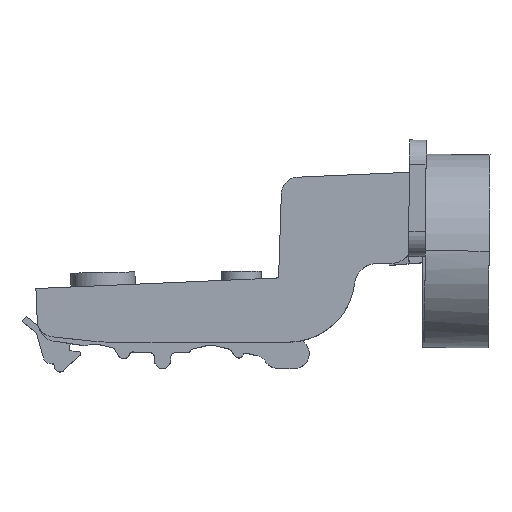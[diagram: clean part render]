
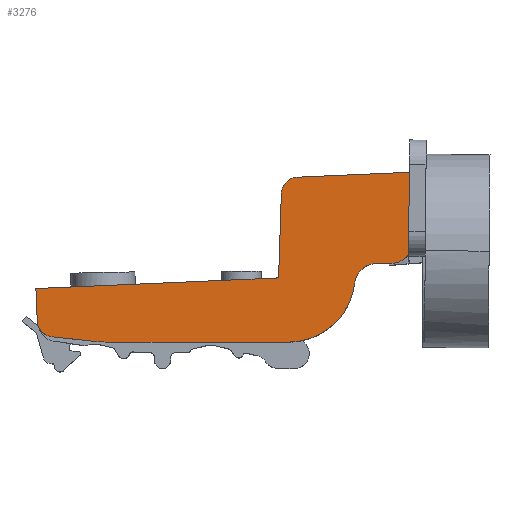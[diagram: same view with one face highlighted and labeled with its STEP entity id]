
A CAD part, top view. The second image highlights one B-rep face of the part: STEP entity #3276.
In plain terms, the highlighted planar face has unit normal (0, 0, 1).
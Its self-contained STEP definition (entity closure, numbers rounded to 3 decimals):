
#78 = CIRCLE ( 'NONE', #549, 30. ) ;
#102 = VECTOR ( 'NONE', #2965, 1000. ) ;
#105 = AXIS2_PLACEMENT_3D ( 'NONE', #3272, #2898, #1049 ) ;
#111 = VERTEX_POINT ( 'NONE', #4655 ) ;
#139 = CIRCLE ( 'NONE', #1222, 4.5 ) ;
#187 = ORIENTED_EDGE ( 'NONE', *, *, #2604, .F. ) ;
#212 = CARTESIAN_POINT ( 'NONE',  ( -18.463, 12.016, 8.5 ) ) ;
#246 = DIRECTION ( 'NONE',  ( 0.999, 0.044, 0. ) ) ;
#271 = DIRECTION ( 'NONE',  ( 0., 0., -1. ) ) ;
#311 = LINE ( 'NONE', #377, #1356 ) ;
#322 = CARTESIAN_POINT ( 'NONE',  ( -48.683, 30., 8.5 ) ) ;
#346 = VECTOR ( 'NONE', #1999, 1000. ) ;
#377 = CARTESIAN_POINT ( 'NONE',  ( -16.683, 0., 8.5 ) ) ;
#382 = LINE ( 'NONE', #4086, #2038 ) ;
#384 = ORIENTED_EDGE ( 'NONE', *, *, #2451, .F. ) ;
#394 = DIRECTION ( 'NONE',  ( 0., -1., 0. ) ) ;
#404 = CARTESIAN_POINT ( 'NONE',  ( -18.941, 11.534, 8.5 ) ) ;
#465 = CIRCLE ( 'NONE', #3194, 12. ) ;
#477 = VERTEX_POINT ( 'NONE', #901 ) ;
#487 = CIRCLE ( 'NONE', #2906, 3. ) ;
#510 = PLANE ( 'NONE',  #2912 ) ;
#525 = VERTEX_POINT ( 'NONE', #2742 ) ;
#545 = VERTEX_POINT ( 'NONE', #1820 ) ;
#549 = AXIS2_PLACEMENT_3D ( 'NONE', #322, #271, #1732 ) ;
#587 = CARTESIAN_POINT ( 'NONE',  ( 4.927, 15.687, 8.5 ) ) ;
#661 = LINE ( 'NONE', #1715, #1949 ) ;
#737 = CARTESIAN_POINT ( 'NONE',  ( -51.819, 0.164, 8.5 ) ) ;
#804 = EDGE_CURVE ( 'NONE', #525, #1540, #465, .T. ) ;
#812 = DIRECTION ( 'NONE',  ( 0., 0., -1. ) ) ;
#858 = VERTEX_POINT ( 'NONE', #4687 ) ;
#901 = CARTESIAN_POINT ( 'NONE',  ( -18.941, 11.534, 8.5 ) ) ;
#968 = EDGE_CURVE ( 'NONE', #4460, #4495, #3360, .T. ) ;
#971 = CARTESIAN_POINT ( 'NONE',  ( 5.061, 30.582, 8.5 ) ) ;
#1049 = DIRECTION ( 'NONE',  ( 0., -1., 0. ) ) ;
#1058 = DIRECTION ( 'NONE',  ( 0., -1., 0. ) ) ;
#1061 = DIRECTION ( 'NONE',  ( -1., 0., 0. ) ) ;
#1102 = CARTESIAN_POINT ( 'NONE',  ( -16.683, 0., 8.5 ) ) ;
#1131 = DIRECTION ( 'NONE',  ( 0., -1., 0. ) ) ;
#1190 = LINE ( 'NONE', #1932, #346 ) ;
#1222 = AXIS2_PLACEMENT_3D ( 'NONE', #3257, #4694, #1058 ) ;
#1244 = EDGE_CURVE ( 'NONE', #1588, #477, #2089, .T. ) ;
#1277 = ORIENTED_EDGE ( 'NONE', *, *, #804, .F. ) ;
#1300 = EDGE_CURVE ( 'NONE', #2704, #4228, #78, .T. ) ;
#1356 = VECTOR ( 'NONE', #1061, 1000. ) ;
#1404 = VERTEX_POINT ( 'NONE', #587 ) ;
#1446 = CARTESIAN_POINT ( 'NONE',  ( -0.788, 10.17, 8.5 ) ) ;
#1452 = ORIENTED_EDGE ( 'NONE', *, *, #3137, .F. ) ;
#1533 = EDGE_CURVE ( 'NONE', #1540, #2704, #311, .T. ) ;
#1540 = VERTEX_POINT ( 'NONE', #1102 ) ;
#1588 = VERTEX_POINT ( 'NONE', #4056 ) ;
#1598 = ORIENTED_EDGE ( 'NONE', *, *, #1244, .F. ) ;
#1663 = DIRECTION ( 'NONE',  ( 0., -1., 0. ) ) ;
#1715 = CARTESIAN_POINT ( 'NONE',  ( -51.819, 0.164, 8.5 ) ) ;
#1732 = DIRECTION ( 'NONE',  ( 0., -1., 0. ) ) ;
#1768 = ORIENTED_EDGE ( 'NONE', *, *, #1533, .F. ) ;
#1800 = AXIS2_PLACEMENT_3D ( 'NONE', #4457, #812, #1131 ) ;
#1820 = CARTESIAN_POINT ( 'NONE',  ( -15.114, 29.701, 8.5 ) ) ;
#1875 = ORIENTED_EDGE ( 'NONE', *, *, #3814, .F. ) ;
#1879 = CIRCLE ( 'NONE', #105, 0.5 ) ;
#1932 = CARTESIAN_POINT ( 'NONE',  ( -61.916, 3.601, 8.5 ) ) ;
#1949 = VECTOR ( 'NONE', #2466, 1000. ) ;
#1999 = DIRECTION ( 'NONE',  ( -0.044, 0.999, 0. ) ) ;
#2006 = VECTOR ( 'NONE', #246, 1000. ) ;
#2013 = EDGE_CURVE ( 'NONE', #4020, #1404, #382, .T. ) ;
#2038 = VECTOR ( 'NONE', #3288, 1000. ) ;
#2089 = LINE ( 'NONE', #404, #2006 ) ;
#2095 = LINE ( 'NONE', #2537, #4413 ) ;
#2118 = ORIENTED_EDGE ( 'NONE', *, *, #2013, .F. ) ;
#2211 = DIRECTION ( 'NONE',  ( 0., 0., 1. ) ) ;
#2280 = ORIENTED_EDGE ( 'NONE', *, *, #3659, .F. ) ;
#2328 = DIRECTION ( 'NONE',  ( 0., 0., -1. ) ) ;
#2354 = DIRECTION ( 'NONE',  ( 1., 0., 0. ) ) ;
#2360 = VERTEX_POINT ( 'NONE', #4009 ) ;
#2379 = VECTOR ( 'NONE', #4131, 1000. ) ;
#2451 = EDGE_CURVE ( 'NONE', #858, #111, #487, .T. ) ;
#2466 = DIRECTION ( 'NONE',  ( -0.995, 0.105, 0. ) ) ;
#2485 = DIRECTION ( 'NONE',  ( 0.999, 0.044, 0. ) ) ;
#2537 = CARTESIAN_POINT ( 'NONE',  ( 5.061, 30.582, 8.5 ) ) ;
#2604 = EDGE_CURVE ( 'NONE', #111, #1588, #1190, .T. ) ;
#2655 = CIRCLE ( 'NONE', #3857, 4. ) ;
#2678 = ORIENTED_EDGE ( 'NONE', *, *, #4532, .F. ) ;
#2704 = VERTEX_POINT ( 'NONE', #3983 ) ;
#2734 = DIRECTION ( 'NONE',  ( 0., 0., 1. ) ) ;
#2742 = CARTESIAN_POINT ( 'NONE',  ( -4.762, 10.627, 8.5 ) ) ;
#2790 = CARTESIAN_POINT ( 'NONE',  ( -16.683, 12., 8.5 ) ) ;
#2891 = LINE ( 'NONE', #3772, #102 ) ;
#2898 = DIRECTION ( 'NONE',  ( 0., 0., 1. ) ) ;
#2906 = AXIS2_PLACEMENT_3D ( 'NONE', #4128, #4524, #3055 ) ;
#2912 = AXIS2_PLACEMENT_3D ( 'NONE', #3480, #2734, #2354 ) ;
#2965 = DIRECTION ( 'NONE',  ( -1., 0., 0. ) ) ;
#3055 = DIRECTION ( 'NONE',  ( 0., -1., 0. ) ) ;
#3123 = CARTESIAN_POINT ( 'NONE',  ( -0.788, 14.17, 8.5 ) ) ;
#3137 = EDGE_CURVE ( 'NONE', #2360, #3471, #2891, .T. ) ;
#3138 = CIRCLE ( 'NONE', #1800, 3. ) ;
#3194 = AXIS2_PLACEMENT_3D ( 'NONE', #2790, #2328, #1663 ) ;
#3197 = EDGE_CURVE ( 'NONE', #4495, #545, #3138, .T. ) ;
#3257 = CARTESIAN_POINT ( 'NONE',  ( 1.558, 18.67, 8.5 ) ) ;
#3272 = CARTESIAN_POINT ( 'NONE',  ( -18.963, 12.034, 8.5 ) ) ;
#3276 = ADVANCED_FACE ( 'NONE', ( #3861 ), #510, .T. ) ;
#3288 = DIRECTION ( 'NONE',  ( -0.009, -1., 0. ) ) ;
#3360 = LINE ( 'NONE', #4073, #2379 ) ;
#3423 = EDGE_CURVE ( 'NONE', #477, #4460, #1879, .T. ) ;
#3471 = VERTEX_POINT ( 'NONE', #3123 ) ;
#3480 = CARTESIAN_POINT ( 'NONE',  ( 13.516, 9.647, 8.5 ) ) ;
#3499 = ORIENTED_EDGE ( 'NONE', *, *, #3197, .F. ) ;
#3659 = EDGE_CURVE ( 'NONE', #4228, #858, #661, .T. ) ;
#3666 = ORIENTED_EDGE ( 'NONE', *, *, #1300, .F. ) ;
#3772 = CARTESIAN_POINT ( 'NONE',  ( 1.558, 14.17, 8.5 ) ) ;
#3814 = EDGE_CURVE ( 'NONE', #3471, #525, #2655, .T. ) ;
#3857 = AXIS2_PLACEMENT_3D ( 'NONE', #1446, #2211, #394 ) ;
#3861 = FACE_OUTER_BOUND ( 'NONE', #4219, .T. ) ;
#3921 = ORIENTED_EDGE ( 'NONE', *, *, #3423, .F. ) ;
#3983 = CARTESIAN_POINT ( 'NONE',  ( -48.683, 0., 8.5 ) ) ;
#4009 = CARTESIAN_POINT ( 'NONE',  ( 1.558, 14.17, 8.5 ) ) ;
#4020 = VERTEX_POINT ( 'NONE', #971 ) ;
#4056 = CARTESIAN_POINT ( 'NONE',  ( -62.18, 9.646, 8.5 ) ) ;
#4073 = CARTESIAN_POINT ( 'NONE',  ( -17.981, 26.802, 8.5 ) ) ;
#4086 = CARTESIAN_POINT ( 'NONE',  ( 5.061, 30.582, 8.5 ) ) ;
#4091 = ORIENTED_EDGE ( 'NONE', *, *, #4666, .F. ) ;
#4128 = CARTESIAN_POINT ( 'NONE',  ( -58.934, 3.929, 8.5 ) ) ;
#4131 = DIRECTION ( 'NONE',  ( 0.033, 0.999, 0. ) ) ;
#4219 = EDGE_LOOP ( 'NONE', ( #2678, #2118, #4091, #3499, #4476, #3921, #1598, #187, #384, #2280, #3666, #1768, #1277, #1875, #1452 ) ) ;
#4228 = VERTEX_POINT ( 'NONE', #737 ) ;
#4413 = VECTOR ( 'NONE', #2485, 1000. ) ;
#4457 = CARTESIAN_POINT ( 'NONE',  ( -14.983, 26.704, 8.5 ) ) ;
#4460 = VERTEX_POINT ( 'NONE', #212 ) ;
#4476 = ORIENTED_EDGE ( 'NONE', *, *, #968, .F. ) ;
#4495 = VERTEX_POINT ( 'NONE', #4541 ) ;
#4524 = DIRECTION ( 'NONE',  ( 0., 0., -1. ) ) ;
#4532 = EDGE_CURVE ( 'NONE', #1404, #2360, #139, .T. ) ;
#4541 = CARTESIAN_POINT ( 'NONE',  ( -17.981, 26.802, 8.5 ) ) ;
#4655 = CARTESIAN_POINT ( 'NONE',  ( -61.916, 3.601, 8.5 ) ) ;
#4666 = EDGE_CURVE ( 'NONE', #545, #4020, #2095, .T. ) ;
#4687 = CARTESIAN_POINT ( 'NONE',  ( -59.247, 0.945, 8.5 ) ) ;
#4694 = DIRECTION ( 'NONE',  ( 0., 0., -1. ) ) ;
